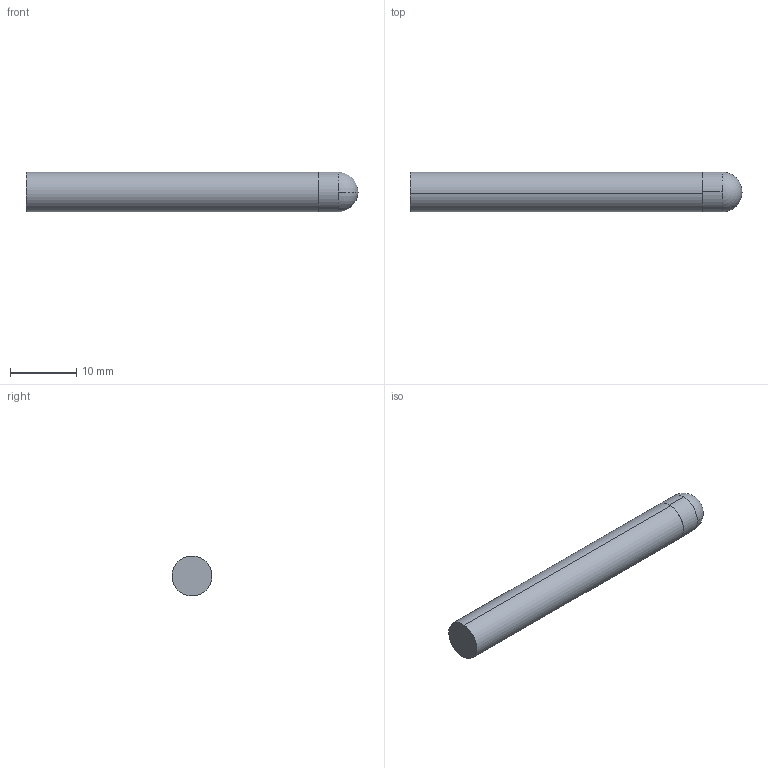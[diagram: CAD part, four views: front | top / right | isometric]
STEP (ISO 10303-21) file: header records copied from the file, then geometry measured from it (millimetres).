
FILE_DESCRIPTION (( 'STEP AP214' ), '1' );
FILE_NAME ('HM70xBNST3006.STEP', '2025-05-20T15:08:35', ( '' ), ( '' ), 'SwSTEP 2.0', 'SolidWorks 2023', '' );
FILE_SCHEMA (( 'AUTOMOTIVE_DESIGN' ));
Length unit declared in the file: millimetre
Products named in the file (3): HM70xBN OD ONLY_HM70xBNST3006; HM70xBN SHANK ONLY_HM70xBNST3006; HM70xBNST3006
Assembly tree (2 placements, depth 2):
  HM70xBNST3006
    HM70xBN OD ONLY_HM70xBNST3006
    HM70xBN SHANK ONLY_HM70xBNST3006
Bounding box: 50 x 6 x 6 mm (x, y, z)
Volume: 1385.4 mm3; surface area: 1027.3 mm2
Topology: 2 solids, 2 shells, 9 faces, 18 edges, 11 vertices
Faces by surface type: cylinder 4, plane 3, sphere 2
Entity records: 318 total; most frequent: DIRECTION 56, CARTESIAN_POINT 41, ORIENTED_EDGE 32, AXIS2_PLACEMENT_3D 26, EDGE_CURVE 16, CIRCLE 12, VERTEX_POINT 11, FACE_OUTER_BOUND 9
